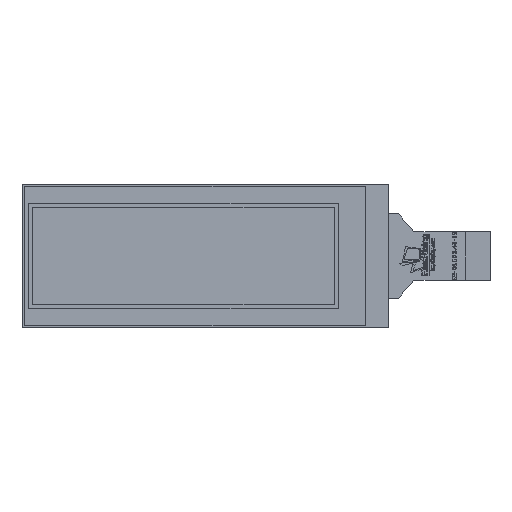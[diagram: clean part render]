
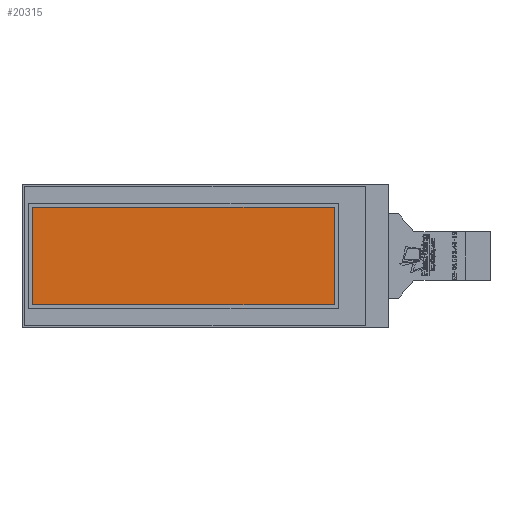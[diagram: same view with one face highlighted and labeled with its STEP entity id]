
A CAD part, top view. The second image highlights one B-rep face of the part: STEP entity #20315.
In plain terms, the highlighted planar face has unit normal (0, 0, 1).
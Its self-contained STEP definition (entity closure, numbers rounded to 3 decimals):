
#688 = CARTESIAN_POINT ( 'NONE',  ( -33.9, -9.59, 1.63 ) ) ;
#1989 = EDGE_CURVE ( 'NONE', #4565, #36504, #25353, .T. ) ;
#2089 = ORIENTED_EDGE ( 'NONE', *, *, #32986, .F. ) ;
#3223 = PLANE ( 'NONE',  #39336 ) ;
#3350 = CARTESIAN_POINT ( 'NONE',  ( 25.36, 0., 1.63 ) ) ;
#3574 = EDGE_CURVE ( 'NONE', #37992, #4565, #32185, .T. ) ;
#3866 = DIRECTION ( 'NONE',  ( 1., 0., 0. ) ) ;
#3877 = DIRECTION ( 'NONE',  ( 0., 1., 0. ) ) ;
#4565 = VERTEX_POINT ( 'NONE', #38582 ) ;
#4798 = VERTEX_POINT ( 'NONE', #26108 ) ;
#12645 = VECTOR ( 'NONE', #3877, 1000. ) ;
#13000 = CARTESIAN_POINT ( 'NONE',  ( 0., -9.59, 1.63 ) ) ;
#13117 = DIRECTION ( 'NONE',  ( 0., -1., 0. ) ) ;
#15204 = VECTOR ( 'NONE', #13117, 1000. ) ;
#15844 = EDGE_CURVE ( 'NONE', #4798, #37992, #19159, .T. ) ;
#17469 = VECTOR ( 'NONE', #22398, 1000. ) ;
#17541 = ORIENTED_EDGE ( 'NONE', *, *, #15844, .F. ) ;
#18531 = CARTESIAN_POINT ( 'NONE',  ( 25.36, 9.59, 1.63 ) ) ;
#18819 = VECTOR ( 'NONE', #38264, 1000. ) ;
#19159 = LINE ( 'NONE', #37865, #18819 ) ;
#19901 = FACE_OUTER_BOUND ( 'NONE', #28676, .T. ) ;
#20315 = ADVANCED_FACE ( 'NONE', ( #19901 ), #3223, .T. ) ;
#22398 = DIRECTION ( 'NONE',  ( -1., 0., 0. ) ) ;
#25353 = LINE ( 'NONE', #13000, #17469 ) ;
#26108 = CARTESIAN_POINT ( 'NONE',  ( -33.9, 9.59, 1.63 ) ) ;
#28676 = EDGE_LOOP ( 'NONE', ( #2089, #35026, #41194, #17541 ) ) ;
#28919 = DIRECTION ( 'NONE',  ( 0., 0., 1. ) ) ;
#29565 = LINE ( 'NONE', #31870, #12645 ) ;
#31870 = CARTESIAN_POINT ( 'NONE',  ( -33.9, 0., 1.63 ) ) ;
#32185 = LINE ( 'NONE', #3350, #15204 ) ;
#32691 = CARTESIAN_POINT ( 'NONE',  ( 0., 0., 1.63 ) ) ;
#32986 = EDGE_CURVE ( 'NONE', #36504, #4798, #29565, .T. ) ;
#35026 = ORIENTED_EDGE ( 'NONE', *, *, #1989, .F. ) ;
#36504 = VERTEX_POINT ( 'NONE', #688 ) ;
#37865 = CARTESIAN_POINT ( 'NONE',  ( 0., 9.59, 1.63 ) ) ;
#37992 = VERTEX_POINT ( 'NONE', #18531 ) ;
#38264 = DIRECTION ( 'NONE',  ( 1., 0., 0. ) ) ;
#38582 = CARTESIAN_POINT ( 'NONE',  ( 25.36, -9.59, 1.63 ) ) ;
#39336 = AXIS2_PLACEMENT_3D ( 'NONE', #32691, #28919, #3866 ) ;
#41194 = ORIENTED_EDGE ( 'NONE', *, *, #3574, .F. ) ;
